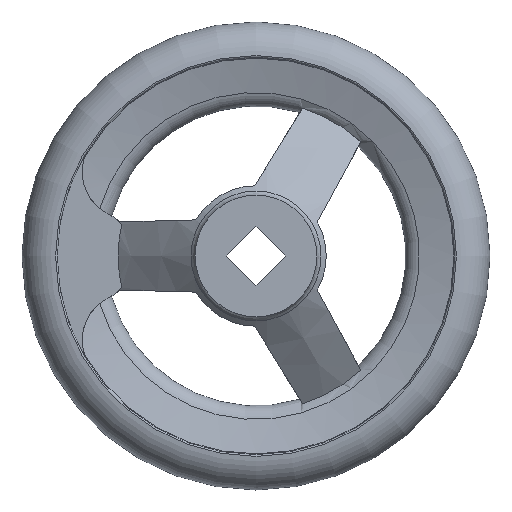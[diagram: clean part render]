
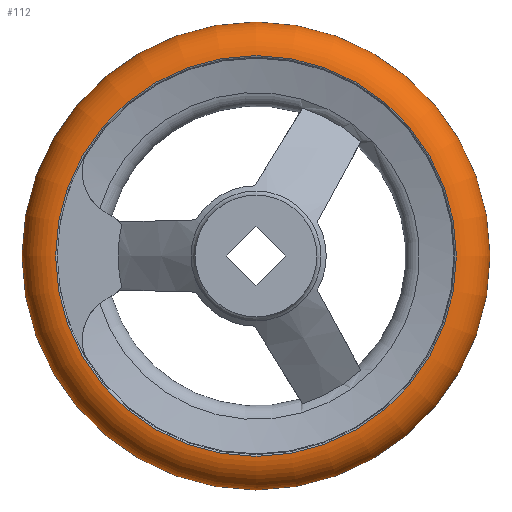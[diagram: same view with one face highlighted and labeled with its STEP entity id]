
A CAD part, left-side view. The second image highlights one B-rep face of the part: STEP entity #112.
In plain terms, the highlighted toroidal (fillet/blend) face has major radius 42.493 mm and minor radius 7.507 mm.
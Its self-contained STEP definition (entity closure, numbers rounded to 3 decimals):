
#112 = ADVANCED_FACE( '', ( #206, #207, #208 ), #209, .T. );
#206 = FACE_BOUND( '', #304, .T. );
#207 = FACE_OUTER_BOUND( '', #305, .T. );
#208 = FACE_OUTER_BOUND( '', #306, .T. );
#209 = TOROIDAL_SURFACE( '', #307, 42.493, 7.507 );
#304 = VERTEX_LOOP( '', #611 );
#305 = EDGE_LOOP( '', ( #612 ) );
#306 = EDGE_LOOP( '', ( #613 ) );
#307 = AXIS2_PLACEMENT_3D( '', #614, #615, #616 );
#611 = VERTEX_POINT( '', #730 );
#612 = ORIENTED_EDGE( '', *, *, #729, .T. );
#613 = ORIENTED_EDGE( '', *, *, #714, .F. );
#614 = CARTESIAN_POINT( '', ( 25.5, 0., 0. ) );
#615 = DIRECTION( '', ( 1., 0., 0. ) );
#616 = DIRECTION( '', ( 0., 1., 0. ) );
#714 = EDGE_CURVE( '', #877, #877, #878, .T. );
#729 = EDGE_CURVE( '', #898, #898, #899, .T. );
#730 = CARTESIAN_POINT( '', ( 25.5, 50., 0. ) );
#877 = VERTEX_POINT( '', #1383 );
#878 = CIRCLE( '', #1384, 42.813 );
#898 = VERTEX_POINT( '', #1444 );
#899 = CIRCLE( '', #1445, 42.813 );
#1383 = CARTESIAN_POINT( '', ( 33., 42.813, 0. ) );
#1384 = AXIS2_PLACEMENT_3D( '', #1546, #1547, #1548 );
#1444 = CARTESIAN_POINT( '', ( 18., 42.812, 0. ) );
#1445 = AXIS2_PLACEMENT_3D( '', #1581, #1582, #1583 );
#1546 = CARTESIAN_POINT( '', ( 33., 0., 0. ) );
#1547 = DIRECTION( '', ( 1., 0., 0. ) );
#1548 = DIRECTION( '', ( 0., 1., 0. ) );
#1581 = CARTESIAN_POINT( '', ( 18., 0., 0. ) );
#1582 = DIRECTION( '', ( 1., 0., 0. ) );
#1583 = DIRECTION( '', ( 0., 1., 0. ) );
